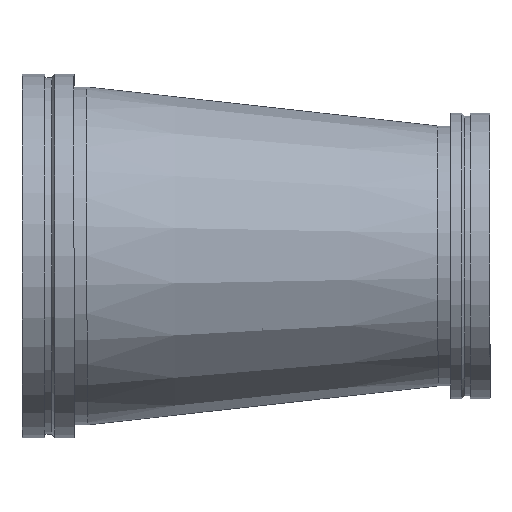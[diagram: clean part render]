
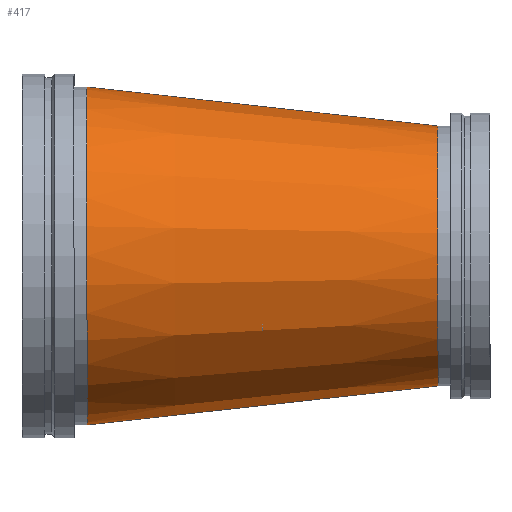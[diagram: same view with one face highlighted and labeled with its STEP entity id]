
A CAD part, top view. The second image highlights one B-rep face of the part: STEP entity #417.
In plain terms, the highlighted conical face has half-angle 6.34 degrees and reference radius 292.1 mm.
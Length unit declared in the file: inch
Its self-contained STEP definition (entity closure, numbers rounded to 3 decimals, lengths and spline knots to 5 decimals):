
#46=CONICAL_SURFACE('',#475,11.5,0.111);
#54=LINE('',#739,#68);
#68=VECTOR('',#587,11.5);
#101=FACE_OUTER_BOUND('',#124,.T.);
#124=EDGE_LOOP('',(#315,#316,#317,#318,#319,#320));
#155=CIRCLE('',#473,13.);
#156=CIRCLE('',#474,13.);
#157=CIRCLE('',#476,10.);
#158=CIRCLE('',#477,10.);
#195=VERTEX_POINT('',#729);
#196=VERTEX_POINT('',#730);
#197=VERTEX_POINT('',#735);
#198=VERTEX_POINT('',#736);
#239=EDGE_CURVE('',#195,#196,#155,.T.);
#240=EDGE_CURVE('',#196,#195,#156,.T.);
#242=EDGE_CURVE('',#197,#198,#157,.T.);
#243=EDGE_CURVE('',#198,#197,#158,.T.);
#244=EDGE_CURVE('',#198,#196,#54,.T.);
#315=ORIENTED_EDGE('',*,*,#242,.F.);
#316=ORIENTED_EDGE('',*,*,#243,.F.);
#317=ORIENTED_EDGE('',*,*,#244,.T.);
#318=ORIENTED_EDGE('',*,*,#240,.T.);
#319=ORIENTED_EDGE('',*,*,#239,.T.);
#320=ORIENTED_EDGE('',*,*,#244,.F.);
#417=ADVANCED_FACE('',(#101),#46,.T.);
#473=AXIS2_PLACEMENT_3D('',#731,#576,#577);
#474=AXIS2_PLACEMENT_3D('',#732,#578,#579);
#475=AXIS2_PLACEMENT_3D('',#734,#581,#582);
#476=AXIS2_PLACEMENT_3D('',#737,#583,#584);
#477=AXIS2_PLACEMENT_3D('',#738,#585,#586);
#576=DIRECTION('center_axis',(1.,0.,0.));
#577=DIRECTION('ref_axis',(0.,0.,-1.));
#578=DIRECTION('center_axis',(1.,0.,0.));
#579=DIRECTION('ref_axis',(0.,0.,-1.));
#581=DIRECTION('center_axis',(-1.,0.,0.));
#582=DIRECTION('ref_axis',(0.,1.,0.));
#583=DIRECTION('center_axis',(1.,0.,0.));
#584=DIRECTION('ref_axis',(0.,0.,-1.));
#585=DIRECTION('center_axis',(1.,0.,0.));
#586=DIRECTION('ref_axis',(0.,0.,-1.));
#587=DIRECTION('',(-0.994,-0.11,0.));
#729=CARTESIAN_POINT('',(5.,13.,0.));
#730=CARTESIAN_POINT('',(5.,-13.,0.));
#731=CARTESIAN_POINT('Origin',(5.,0.,0.));
#732=CARTESIAN_POINT('Origin',(5.,0.,0.));
#734=CARTESIAN_POINT('Origin',(18.5,0.,0.));
#735=CARTESIAN_POINT('',(32.,10.,0.));
#736=CARTESIAN_POINT('',(32.,-10.,0.));
#737=CARTESIAN_POINT('Origin',(32.,0.,0.));
#738=CARTESIAN_POINT('Origin',(32.,0.,0.));
#739=CARTESIAN_POINT('',(18.5,-11.5,0.));
